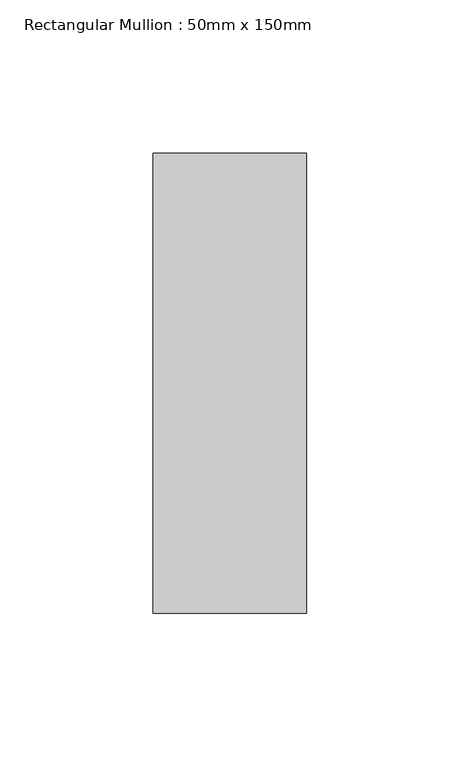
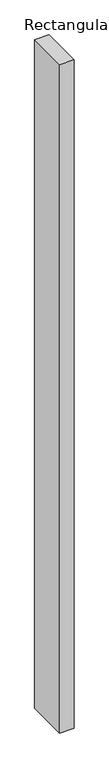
"""IFC4 building model written with IfcOpenShell, lengths in millimetres: member geometry, Rectangular Mullion : 50mm x 150mm."""

from ifc_helpers import new_model, si_unit, frame, origin, place, context, project, spatial, polyline, outline, extrude, source, transform, mapped, element, save


def rectangular_mullion_50mm_x_150mm_36202a7c(model_context):
    return source(origin(), model_context, "Body", "SweptSolid", [
        extrude(outline(polyline([(25.0, 75.0), (25.0, -75.0), (-25.0, -75.0), (-25.0, 75.0), (25.0, 75.0)])), frame((0.0, 0.0, -2440.0), z_axis=(0.0, 0.0, 1.0), x_axis=(1.0, 0.0, 0.0)), (0.0, 0.0, 1.0), 2440.0),
    ])


if __name__ == "__main__":
    model = new_model("IFC4")
    model_context = context("Model", 3, world=origin())
    ifc_project = project(units=[si_unit("LENGTHUNIT", "METRE", prefix="MILLI")], contexts=[model_context])
    site = spatial("IfcSite", under=ifc_project)
    building = spatial("IfcBuilding", under=site)
    placement = place(None, origin())
    rectangular_mullion_50mm_x_150mm_shape = rectangular_mullion_50mm_x_150mm_36202a7c(model_context)
    element("IfcMember", 1, ObjectType="Rectangular Mullion : 50mm x 150mm", at=placement, inside=building, context=model_context, shape_type="MappedRepresentation", body=[
        mapped(rectangular_mullion_50mm_x_150mm_shape, transform((0.0, 0.0, 0.0), x_axis=(1.0, 0.0, 0.0), y_axis=(0.0, 1.0, 0.0), z_axis=(0.0, 0.0, 1.0))),
    ])
    save(model, "model.ifc")
